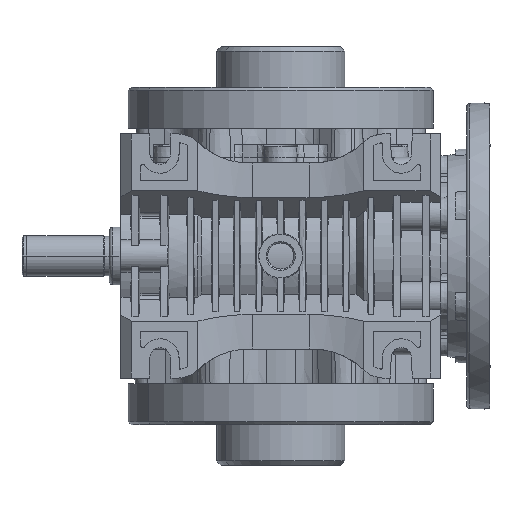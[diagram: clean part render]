
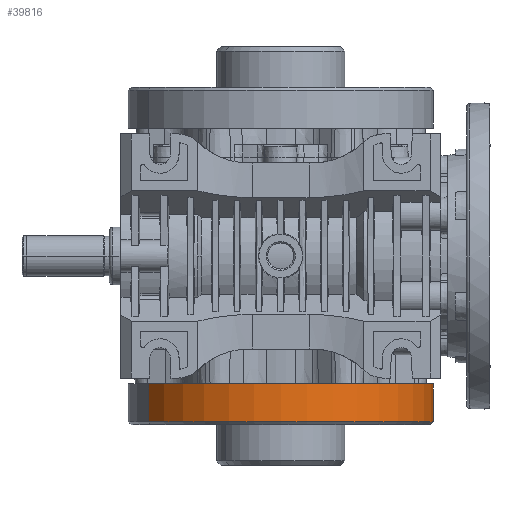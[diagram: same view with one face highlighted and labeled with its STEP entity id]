
A CAD part, front view. The second image highlights one B-rep face of the part: STEP entity #39816.
In plain terms, the highlighted cylindrical face has radius 52.5 mm (diameter 105 mm), a partial arc.
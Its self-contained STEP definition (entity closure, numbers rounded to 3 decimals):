
#346 = DIRECTION ( 'NONE',  ( 0., 0., 1. ) ) ;
#1080 = DIRECTION ( 'NONE',  ( 0.866, 0.5, 0. ) ) ;
#4034 = EDGE_CURVE ( 'NONE', #51975, #50131, #60272, .T. ) ;
#12643 = AXIS2_PLACEMENT_3D ( 'NONE', #83287, #69368, #1080 ) ;
#15355 = VERTEX_POINT ( 'NONE', #84127 ) ;
#17959 = ORIENTED_EDGE ( 'NONE', *, *, #82195, .T. ) ;
#23308 = DIRECTION ( 'NONE',  ( 0.866, 0.5, 0. ) ) ;
#29050 = ORIENTED_EDGE ( 'NONE', *, *, #92584, .F. ) ;
#31250 = CARTESIAN_POINT ( 'NONE',  ( 0., 0., -57. ) ) ;
#31397 = DIRECTION ( 'NONE',  ( 0., 0., 1. ) ) ;
#31884 = CARTESIAN_POINT ( 'NONE',  ( -45.466, -26.25, -44. ) ) ;
#34936 = EDGE_CURVE ( 'NONE', #15355, #50131, #71378, .T. ) ;
#35587 = DIRECTION ( 'NONE',  ( 0., 0., 1. ) ) ;
#39816 = ADVANCED_FACE ( 'NONE', ( #52928 ), #76800, .T. ) ;
#40915 = CIRCLE ( 'NONE', #72764, 52.5 ) ;
#41091 = DIRECTION ( 'NONE',  ( 0.866, 0.5, 0. ) ) ;
#48982 = DIRECTION ( 'NONE',  ( 0., 0., 1. ) ) ;
#50131 = VERTEX_POINT ( 'NONE', #92085 ) ;
#50768 = EDGE_LOOP ( 'NONE', ( #29050, #17959, #92830, #65053 ) ) ;
#51975 = VERTEX_POINT ( 'NONE', #69417 ) ;
#52928 = FACE_OUTER_BOUND ( 'NONE', #50768, .T. ) ;
#57687 = VECTOR ( 'NONE', #48982, 1000. ) ;
#60272 = CIRCLE ( 'NONE', #84154, 52.5 ) ;
#61302 = LINE ( 'NONE', #31884, #75784 ) ;
#63914 = CARTESIAN_POINT ( 'NONE',  ( 45.466, 26.25, -44. ) ) ;
#65053 = ORIENTED_EDGE ( 'NONE', *, *, #4034, .F. ) ;
#65483 = CARTESIAN_POINT ( 'NONE',  ( 0., 0., -44. ) ) ;
#69368 = DIRECTION ( 'NONE',  ( 0., 0., 1. ) ) ;
#69417 = CARTESIAN_POINT ( 'NONE',  ( -45.466, -26.25, -44. ) ) ;
#71378 = LINE ( 'NONE', #63914, #57687 ) ;
#72764 = AXIS2_PLACEMENT_3D ( 'NONE', #31250, #346, #23308 ) ;
#74029 = VERTEX_POINT ( 'NONE', #97697 ) ;
#75784 = VECTOR ( 'NONE', #31397, 1000. ) ;
#76800 = CYLINDRICAL_SURFACE ( 'NONE', #12643, 52.5 ) ;
#82195 = EDGE_CURVE ( 'NONE', #74029, #15355, #40915, .T. ) ;
#83287 = CARTESIAN_POINT ( 'NONE',  ( 0., 0., -44. ) ) ;
#84127 = CARTESIAN_POINT ( 'NONE',  ( 45.466, 26.25, -57. ) ) ;
#84154 = AXIS2_PLACEMENT_3D ( 'NONE', #65483, #35587, #41091 ) ;
#92085 = CARTESIAN_POINT ( 'NONE',  ( 45.466, 26.25, -44. ) ) ;
#92584 = EDGE_CURVE ( 'NONE', #74029, #51975, #61302, .T. ) ;
#92830 = ORIENTED_EDGE ( 'NONE', *, *, #34936, .T. ) ;
#97697 = CARTESIAN_POINT ( 'NONE',  ( -45.466, -26.25, -57. ) ) ;
